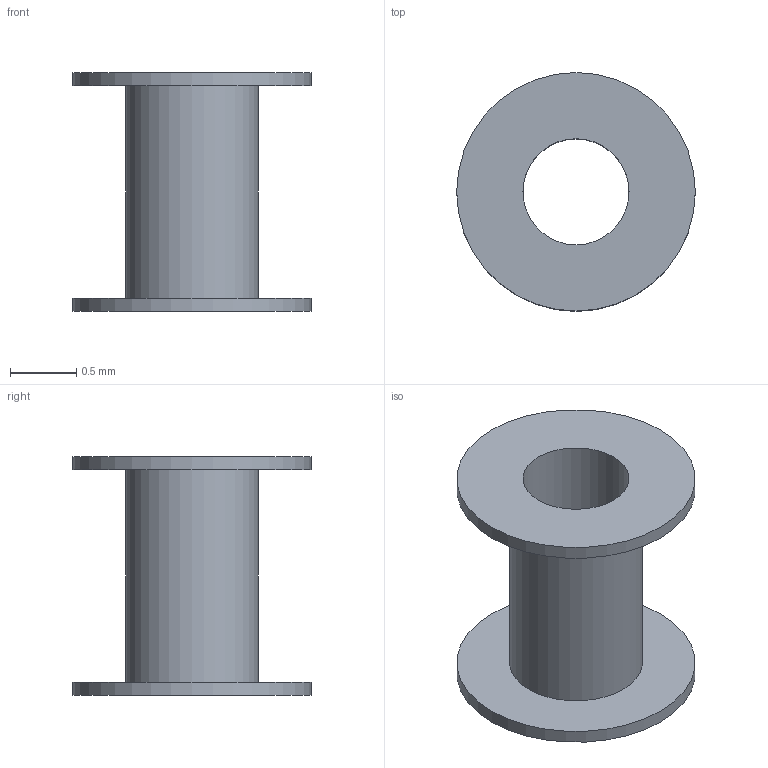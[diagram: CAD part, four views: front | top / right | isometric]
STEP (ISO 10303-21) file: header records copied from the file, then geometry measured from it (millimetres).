
FILE_DESCRIPTION(/* description */ ('STEP AP242 Edition 2','CAx-IF Rec.Pracs.---Representation and Presentation of Product Manufacturing Information (PMI)---4.0---2014-10-13','CAx-IF Rec.Pracs.---3D Tessellated Geometry---0.4---2014-09-14','2;1','CAx-IF Rec.Pracs.---User Defined Attributes---1.5---2016-08-15'),/* implementation_level */ '2;1');
FILE_NAME(/* name */ 'Drone Layout - Surface 292',/* time_stamp */ '2026-10-04T22:22:55Z',/* author */ (''),/* organization */ (''),/* preprocessor_version */ 'ST-DEVELOPER v20',/* originating_system */ 'ONSHAPE BY PTC INC, 1.221',/* authorisation */ ' ');
FILE_SCHEMA (('AP242_MANAGED_MODEL_BASED_3D_ENGINEERING_MIM_LF { 1 0 10303 442 3 1 4 }'));
Length unit declared in the file: metre
Products named in the file (1): trou003
Bounding box: 1.8 x 1.8 x 1.8 mm (x, y, z)
Volume: 0.9 mm3; surface area: 18.3 mm2
Topology: 1 solids, 1 shells, 8 faces, 12 edges, 8 vertices
Faces by surface type: plane 4, cylinder 4
Full cylindrical faces by diameter (mm): 0.8 x1, 1 x1, 1.8 x2
Entity records: 201 total; most frequent: DIRECTION 38, CARTESIAN_POINT 29, ORIENTED_EDGE 24, AXIS2_PLACEMENT_3D 17, EDGE_CURVE 12, EDGE_LOOP 12, FACE_BOUND 12, VERTEX_POINT 8
